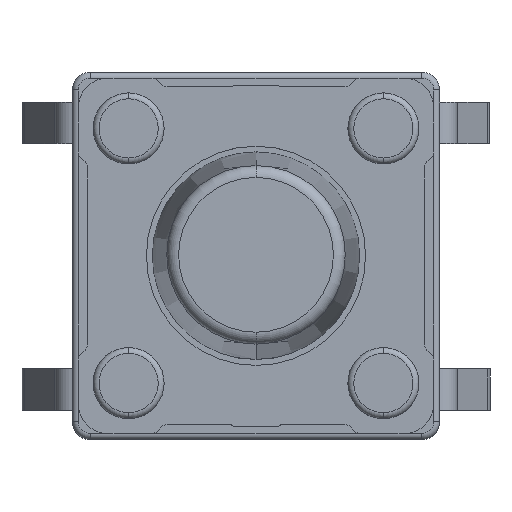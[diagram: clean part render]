
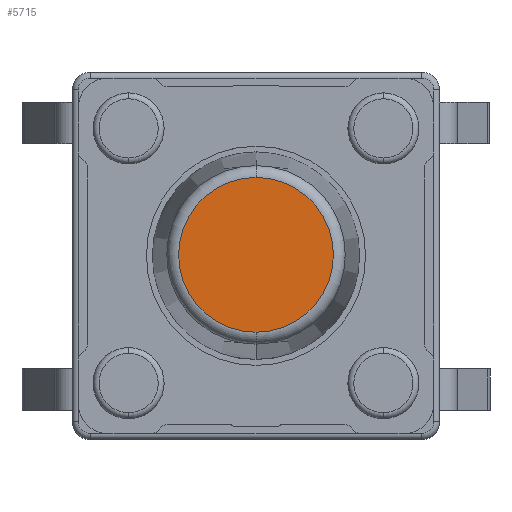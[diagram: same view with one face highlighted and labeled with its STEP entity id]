
A CAD part, top view. The second image highlights one B-rep face of the part: STEP entity #5715.
In plain terms, the highlighted planar face has unit normal (0, 0, 1) as drawn and (0, 1, 0) by its records, which use the part's own axes.
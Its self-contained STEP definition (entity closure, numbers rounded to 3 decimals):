
#5712 = EDGE_CURVE ( 'NONE', #6090, #6169, #9941, .T. ) ;
#5715 = ADVANCED_FACE ( 'NONE', ( #9936 ), #9972, .T. ) ;
#5716 = EDGE_LOOP ( 'NONE', ( #5717, #5769 ) ) ;
#5717 = ORIENTED_EDGE ( 'NONE', *, *, #6100, .F. ) ;
#5769 = ORIENTED_EDGE ( 'NONE', *, *, #5712, .F. ) ;
#6090 = VERTEX_POINT ( 'NONE', #10893 ) ;
#6100 = EDGE_CURVE ( 'NONE', #6169, #6090, #10914, .T. ) ;
#6169 = VERTEX_POINT ( 'NONE', #11149 ) ;
#9936 = FACE_OUTER_BOUND ( 'NONE', #5716, .T. ) ;
#9937 = DIRECTION ( 'NONE',  ( 0., 0., -1. ) ) ;
#9938 = DIRECTION ( 'NONE',  ( 0., -1., 0. ) ) ;
#9939 = CARTESIAN_POINT ( 'NONE',  ( 0., 13., 0. ) ) ;
#9940 = AXIS2_PLACEMENT_3D ( 'NONE', #9939, #9938, #9937 ) ;
#9941 = CIRCLE ( 'NONE', #9940, 1.307 ) ;
#9967 = DIRECTION ( 'NONE',  ( 0., 0., 1. ) ) ;
#9968 = DIRECTION ( 'NONE',  ( 0., 1., 0. ) ) ;
#9969 = CARTESIAN_POINT ( 'NONE',  ( 0., 13., 0. ) ) ;
#9970 = AXIS2_PLACEMENT_3D ( 'NONE', #9969, #9968, #9967 ) ;
#9972 = PLANE ( 'NONE',  #9970 ) ;
#10893 = CARTESIAN_POINT ( 'NONE',  ( 0., 13., 1.307 ) ) ;
#10910 = DIRECTION ( 'NONE',  ( 0., 0., -1. ) ) ;
#10911 = DIRECTION ( 'NONE',  ( 0., -1., 0. ) ) ;
#10912 = CARTESIAN_POINT ( 'NONE',  ( 0., 13., 0. ) ) ;
#10913 = AXIS2_PLACEMENT_3D ( 'NONE', #10912, #10911, #10910 ) ;
#10914 = CIRCLE ( 'NONE', #10913, 1.307 ) ;
#11149 = CARTESIAN_POINT ( 'NONE',  ( 0., 13., -1.307 ) ) ;
